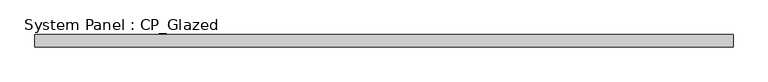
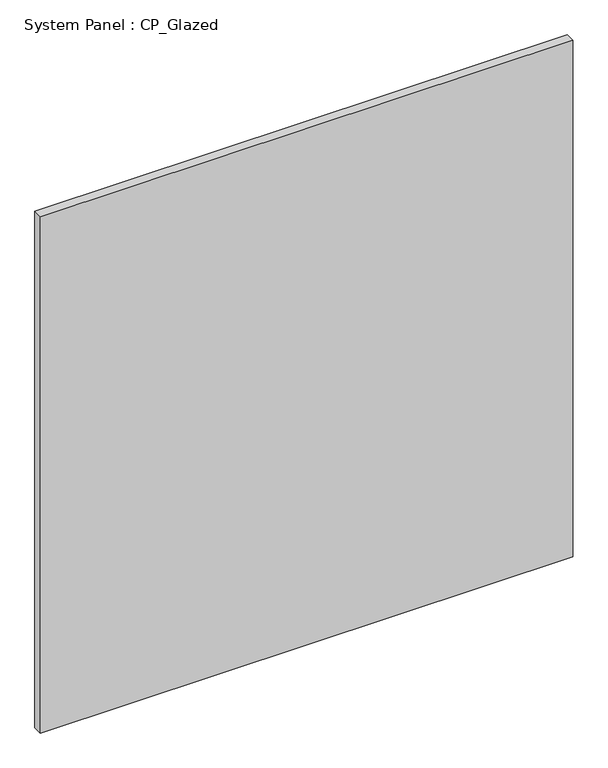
"""IFC4 building model written with IfcOpenShell, lengths in millimetres: plate geometry, System Panel : CP_Glazed."""

import ifcopenshell
import ifcopenshell.guid

model = None  # the IFC model being written
_history = None  # IfcOwnerHistory: only IFC2X3 demands one
_inside = {}  # id of a spatial element -> (the spatial element, [elements in it])
_under = {}  # id of a project, library or spatial element -> (it, [spatial elements below it])
_declared = {}  # id of a project -> (the project, [libraries it declares])
_typed = {}  # id of a type object -> (the type object, [elements of that type])
_made_of = {}  # id of a material, layer set ... -> (it, [elements and type objects made of it])


def new_model(schema):
    """Start an empty IFC model of exactly this schema.

    Asked for "IFC4X3", IfcOpenShell would pick the latest addendum, in which some entities
    have other attributes; the version numbers below select the first issue.
    IFC2X3 requires an IfcOwnerHistory on every rooted entity: one is made here for all.
    """
    global model, _history
    if schema == "IFC4X3":
        model = ifcopenshell.file(schema_version=(4, 3, 0, 0))
    else:
        model = ifcopenshell.file(schema=schema)
    _inside.clear()
    _under.clear()
    _declared.clear()
    _typed.clear()
    _made_of.clear()
    _history = None
    if model.schema == "IFC2X3":
        org = make("IfcOrganization", Name="unknown")
        user = make(
            "IfcPersonAndOrganization",
            ThePerson=make("IfcPerson", FamilyName="unknown"),
            TheOrganization=org,
        )
        app = make(
            "IfcApplication",
            ApplicationDeveloper=org,
            Version="unknown",
            ApplicationFullName="unknown",
            ApplicationIdentifier="unknown",
        )
        _history = make(
            "IfcOwnerHistory",
            OwningUser=user,
            OwningApplication=app,
            ChangeAction="ADDED",
            CreationDate=0,
        )
    return model


def make(cls, **values):
    """One entity of the class cls with the attributes given. An attribute that is None is left unset."""
    return model.create_entity(
        cls, **{name: value for name, value in values.items() if value is not None}
    )


def rooted(cls, **values):
    """An entity with a GlobalId (a new one), such as an element, a storey or a relation."""
    return make(cls, GlobalId=ifcopenshell.guid.new(), OwnerHistory=_history, **values)


def si_unit(unit_type, name, prefix=None):
    """IfcSIUnit, for example si_unit("LENGTHUNIT", "METRE", prefix="MILLI")."""
    return make("IfcSIUnit", UnitType=unit_type, Prefix=prefix, Name=name)


def assignment(units):
    """IfcUnitAssignment: the units of a project."""
    return None if units is None else make("IfcUnitAssignment", Units=units)


def point(xyz):
    """IfcCartesianPoint."""
    return None if xyz is None else make("IfcCartesianPoint", Coordinates=xyz)


def direction(xyz):
    """IfcDirection."""
    return None if xyz is None else make("IfcDirection", DirectionRatios=xyz)


def frame(location, z_axis=None, x_axis=None):
    """IfcAxis2Placement3D, a coordinate frame: its origin and axes. An axis left out is left unset."""
    return make(
        "IfcAxis2Placement3D",
        Location=point(location),
        Axis=direction(z_axis),
        RefDirection=direction(x_axis),
    )


def origin():
    """The frame at (0, 0, 0) with its axes left unset."""
    return frame((0.0, 0.0, 0.0))


def origin_with_axes():
    """The frame at (0, 0, 0) with the z axis (0, 0, 1) and the x axis (1, 0, 0) written out."""
    return frame((0.0, 0.0, 0.0), z_axis=(0.0, 0.0, 1.0), x_axis=(1.0, 0.0, 0.0))


def place(relative_to, where):
    """IfcLocalPlacement: puts the frame where relative to a parent placement (None: the world)."""
    return make(
        "IfcLocalPlacement", PlacementRelTo=relative_to, RelativePlacement=where
    )


def context(
    kind, dimensions, precision=None, world=None, true_north=None, identifier=None
):
    """IfcGeometricRepresentationContext, for example the 3D "Model" context."""
    return make(
        "IfcGeometricRepresentationContext",
        ContextIdentifier=identifier,
        ContextType=kind,
        CoordinateSpaceDimension=dimensions,
        Precision=precision,
        WorldCoordinateSystem=world,
        TrueNorth=true_north,
    )


def project(units=None, contexts=None):
    """IfcProject with its units and contexts."""
    return rooted(
        "IfcProject",
        Name="project",
        RepresentationContexts=contexts,
        UnitsInContext=assignment(units),
    )


def spatial(cls, under=None, at=None, **own):
    """A site, building, storey or space (cls), placed at a placement, below another one or the project."""
    s = rooted(cls, ObjectPlacement=at, **own)
    if under is not None:
        _under.setdefault(under.id(), (under, []))[1].append(s)
    return s


def polyline(points):
    """IfcPolyline through the points."""
    return make("IfcPolyline", Points=[point(p) for p in points])


def outline(outer, holes=None, kind="AREA"):
    """IfcArbitraryClosedProfileDef: a profile drawn as a closed curve; with holes, ...WithVoids."""
    if holes is None:
        return make("IfcArbitraryClosedProfileDef", ProfileType=kind, OuterCurve=outer)
    return make(
        "IfcArbitraryProfileDefWithVoids",
        ProfileType=kind,
        OuterCurve=outer,
        InnerCurves=holes,
    )


def extrude(swept, where, along, depth):
    """IfcExtrudedAreaSolid: the profile swept, set in the frame where, extruded along a direction by depth."""
    return make(
        "IfcExtrudedAreaSolid",
        SweptArea=swept,
        Position=where,
        ExtrudedDirection=direction(along),
        Depth=depth,
    )


def shape(context_of_items, identifier, shape_type, items):
    """IfcShapeRepresentation: the items that make up one representation, for example the "Body"."""
    return make(
        "IfcShapeRepresentation",
        ContextOfItems=context_of_items,
        RepresentationIdentifier=identifier,
        RepresentationType=shape_type,
        Items=items,
    )


def source(mapping_origin, context_of_items, identifier, shape_type, items):
    """IfcRepresentationMap: a shape defined once, which mapped items show again and again."""
    return make(
        "IfcRepresentationMap",
        MappingOrigin=mapping_origin,
        MappedRepresentation=shape(context_of_items, identifier, shape_type, items),
    )


def transform(
    local_origin,
    x_axis=None,
    y_axis=None,
    z_axis=None,
    scale=None,
    scale2=None,
    scale3=None,
    uniform=True,
):
    """IfcCartesianTransformationOperator3D, or its non-uniform kind. x_axis, y_axis, z_axis: its Axis1, 2, 3."""
    if uniform:
        return make(
            "IfcCartesianTransformationOperator3D",
            Axis1=direction(x_axis),
            Axis2=direction(y_axis),
            LocalOrigin=point(local_origin),
            Scale=scale,
            Axis3=direction(z_axis),
        )
    return make(
        "IfcCartesianTransformationOperator3DnonUniform",
        Axis1=direction(x_axis),
        Axis2=direction(y_axis),
        LocalOrigin=point(local_origin),
        Scale=scale,
        Axis3=direction(z_axis),
        Scale2=scale2,
        Scale3=scale3,
    )


def mapped(mapping_source, mapping_target):
    """IfcMappedItem: shows the shape of a source again, moved by a transform."""
    return make(
        "IfcMappedItem", MappingSource=mapping_source, MappingTarget=mapping_target
    )


def made_of(thing, what):
    """Note that an element or type object is made of a material, layer set ...; save() writes the relation."""
    if what is not None:
        _made_of.setdefault(what.id(), (what, []))[1].append(thing)
    return thing


def element(
    cls,
    number,
    at=None,
    inside=None,
    cuts=None,
    type_object=None,
    material=None,
    context=None,
    identifier="Body",
    shape_type=None,
    held_by="IfcProductDefinitionShape",
    body=None,
    shapes=None,
    **own,
):
    """One element of the class cls, such as IfcWall. Its Tag is "e" and its number.

    at: its placement. inside: the storey or other place that contains it. cuts: it is an
    opening in that element (IfcRelVoidsElement). A single representation is given by context,
    identifier, shape_type and body (its items); several are given by shapes. held_by: the class
    of the entity that holds the representations. save() writes the other relations.
    """
    e = rooted(cls, Tag="e%d" % number, ObjectPlacement=at, **own)
    if body is not None:
        shapes = [shape(context, identifier, shape_type, body)]
    if shapes is not None:
        e.Representation = make(held_by, Representations=shapes)
    if inside is not None:
        _inside.setdefault(inside.id(), (inside, []))[1].append(e)
    if cuts is not None:
        rooted(
            "IfcRelVoidsElement", RelatingBuildingElement=cuts, RelatedOpeningElement=e
        )
    if type_object is not None:
        _typed.setdefault(type_object.id(), (type_object, []))[1].append(e)
    return made_of(e, material)


def aggregate(whole, parts):
    """IfcRelAggregates: a whole, such as a stair, and the parts it consists of."""
    return rooted("IfcRelAggregates", RelatingObject=whole, RelatedObjects=parts)


def save(model, path):
    """Write the relations noted so far, then the file.

    IfcRelAggregates (storeys below a building ...), IfcRelContainedInSpatialStructure (elements
    in a storey), IfcRelDefinesByType, IfcRelAssociatesMaterial and IfcRelDeclares: one each for
    every whole, place, type object, material and project.
    """
    for whole, parts in _under.values():
        aggregate(whole, parts)
    for where, things in _inside.values():
        rooted(
            "IfcRelContainedInSpatialStructure",
            RelatedElements=things,
            RelatingStructure=where,
        )
    for kind, things in _typed.values():
        rooted("IfcRelDefinesByType", RelatedObjects=things, RelatingType=kind)
    for what, things in _made_of.values():
        rooted("IfcRelAssociatesMaterial", RelatedObjects=things, RelatingMaterial=what)
    for by, libraries in _declared.values():
        rooted("IfcRelDeclares", RelatingContext=by, RelatedDefinitions=libraries)
    model.write(path)


def system_panel_cp_glazed_d27b2bc2(model_context):
    return source(origin(), model_context, "Body", "SweptSolid", [
        extrude(outline(polyline([(721.0425, -44.45), (-721.0425, -44.45), (-721.0425, -19.05), (721.0425, -19.05), (721.0425, -44.45)])), origin_with_axes(), (0.0, 0.0, 1.0), 1479.55),
    ])


if __name__ == "__main__":
    model = new_model("IFC4")
    model_context = context("Model", 3, world=origin())
    ifc_project = project(units=[si_unit("LENGTHUNIT", "METRE", prefix="MILLI")], contexts=[model_context])
    site = spatial("IfcSite", under=ifc_project)
    building = spatial("IfcBuilding", under=site)
    placement = place(None, origin())
    system_panel_cp_glazed_shape = system_panel_cp_glazed_d27b2bc2(model_context)
    element("IfcPlate", 1, ObjectType="System Panel : CP_Glazed", at=placement, inside=building, context=model_context, shape_type="MappedRepresentation", body=[
        mapped(system_panel_cp_glazed_shape, transform((0.0, 0.0, 0.0), x_axis=(1.0, 0.0, 0.0), y_axis=(0.0, 1.0, 0.0), z_axis=(0.0, 0.0, 1.0))),
    ])
    save(model, "model.ifc")
